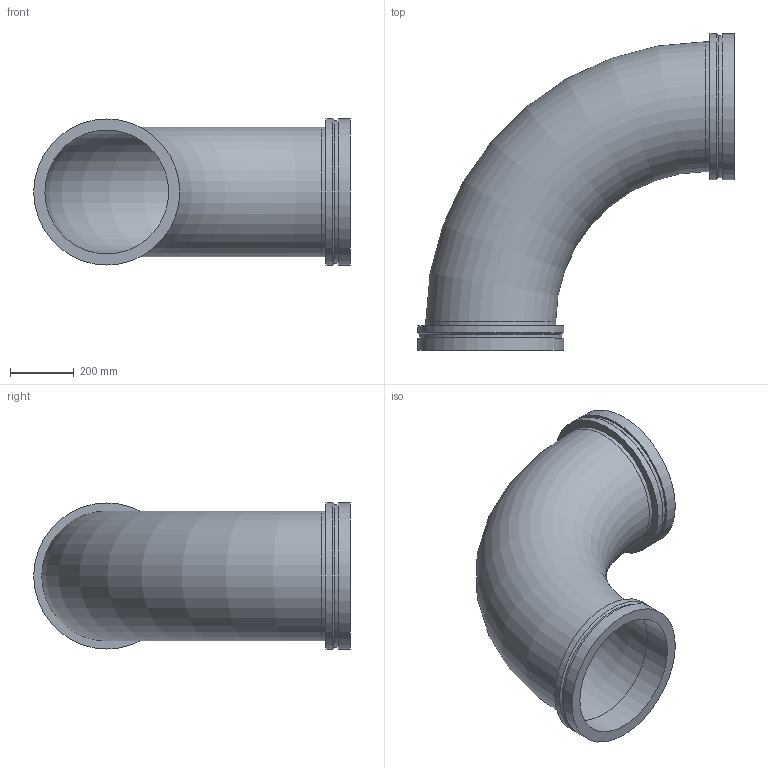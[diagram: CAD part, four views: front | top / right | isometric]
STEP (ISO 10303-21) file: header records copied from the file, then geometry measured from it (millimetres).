
FILE_DESCRIPTION(/* description */ ('VIC 90 DEG ELBOW No W100 VR','CAx-IF Rec.Pracs.---Representation and Presentation of Product Manufacturing Information (PMI)---4.0---2014-10-13'),/* implementation_level */ '2;1');
FILE_NAME(/* name */ 'C:\Users\kkamble\AppData\Roaming\Autodesk\ApplicationPlugins\Back Up\Victaulic_Vic-Ring_Elbow 90 Deg LR_No W100 VR (AGR)\Victaulic_Vic-Ring_Elbow 90 Deg LR_No W100 VR (AGR)_16 (400).stp',/* time_stamp */ '2020-09-10T11:43:44+05:00',/* author */ ('cps_temp'),/* organization */ ('Victaulic'),/* preprocessor_version */ 'ST-DEVELOPER v17.2',/* originating_system */ 'Autodesk Inventor 2019',/* authorisation */ '');
FILE_SCHEMA (('AP242_MANAGED_MODEL_BASED_3D_ENGINEERING_MIM_LF { 1 0 10303 442 1 1 4 }'));
Length unit declared in the file: inch
Products named in the file (1): W100 VR-16.0
Bounding box: 990.6 x 990.6 x 457.2 mm (x, y, z)
Volume: 19663104.1 mm3; surface area: 3291040.9 mm2
Topology: 1 solids, 1 shells, 20 faces, 51 edges, 37 vertices
Faces by surface type: cylinder 10, plane 6, cone 2, torus 2
Full cylindrical faces by diameter (mm): 387.35 x2, 406.4 x2, 444.5 x2, 457.2 x4
Entity records: 802 total; most frequent: DIRECTION 158, CARTESIAN_POINT 126, ORIENTED_EDGE 102, AXIS2_PLACEMENT_3D 73, EDGE_CURVE 51, CIRCLE 39, VERTEX_POINT 37, EDGE_LOOP 26
